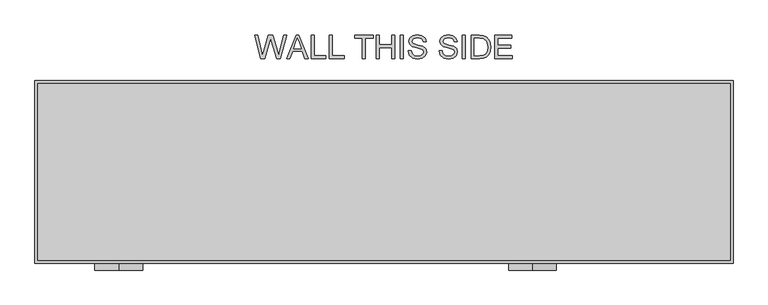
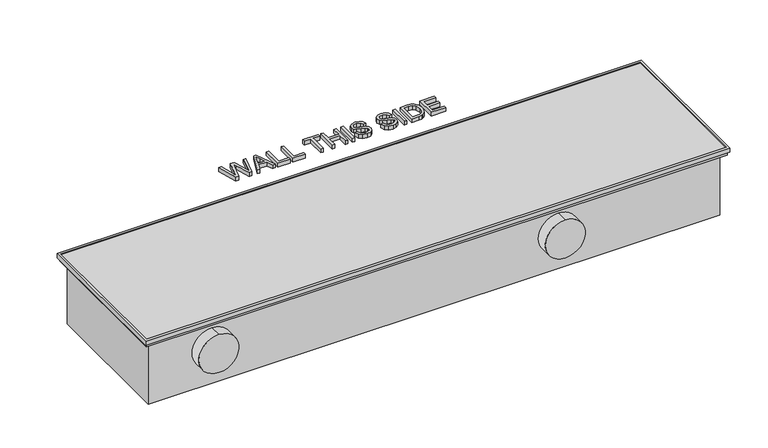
"""IFC4 building model written with IfcOpenShell, lengths in millimetres: unitary equipment geometry, VERANO CVK4P-II : CVK4P-18/35-II."""

import ifcopenshell
import ifcopenshell.guid

model = None  # the IFC model being written
_history = None  # IfcOwnerHistory: only IFC2X3 demands one
_inside = {}  # id of a spatial element -> (the spatial element, [elements in it])
_under = {}  # id of a project, library or spatial element -> (it, [spatial elements below it])
_declared = {}  # id of a project -> (the project, [libraries it declares])
_typed = {}  # id of a type object -> (the type object, [elements of that type])
_made_of = {}  # id of a material, layer set ... -> (it, [elements and type objects made of it])


def new_model(schema):
    """Start an empty IFC model of exactly this schema.

    Asked for "IFC4X3", IfcOpenShell would pick the latest addendum, in which some entities
    have other attributes; the version numbers below select the first issue.
    IFC2X3 requires an IfcOwnerHistory on every rooted entity: one is made here for all.
    """
    global model, _history
    if schema == "IFC4X3":
        model = ifcopenshell.file(schema_version=(4, 3, 0, 0))
    else:
        model = ifcopenshell.file(schema=schema)
    _inside.clear()
    _under.clear()
    _declared.clear()
    _typed.clear()
    _made_of.clear()
    _history = None
    if model.schema == "IFC2X3":
        org = make("IfcOrganization", Name="unknown")
        user = make(
            "IfcPersonAndOrganization",
            ThePerson=make("IfcPerson", FamilyName="unknown"),
            TheOrganization=org,
        )
        app = make(
            "IfcApplication",
            ApplicationDeveloper=org,
            Version="unknown",
            ApplicationFullName="unknown",
            ApplicationIdentifier="unknown",
        )
        _history = make(
            "IfcOwnerHistory",
            OwningUser=user,
            OwningApplication=app,
            ChangeAction="ADDED",
            CreationDate=0,
        )
    return model


def make(cls, **values):
    """One entity of the class cls with the attributes given. An attribute that is None is left unset."""
    return model.create_entity(
        cls, **{name: value for name, value in values.items() if value is not None}
    )


def rooted(cls, **values):
    """An entity with a GlobalId (a new one), such as an element, a storey or a relation."""
    return make(cls, GlobalId=ifcopenshell.guid.new(), OwnerHistory=_history, **values)


def si_unit(unit_type, name, prefix=None):
    """IfcSIUnit, for example si_unit("LENGTHUNIT", "METRE", prefix="MILLI")."""
    return make("IfcSIUnit", UnitType=unit_type, Prefix=prefix, Name=name)


def assignment(units):
    """IfcUnitAssignment: the units of a project."""
    return None if units is None else make("IfcUnitAssignment", Units=units)


def point(xyz):
    """IfcCartesianPoint."""
    return None if xyz is None else make("IfcCartesianPoint", Coordinates=xyz)


def direction(xyz):
    """IfcDirection."""
    return None if xyz is None else make("IfcDirection", DirectionRatios=xyz)


def frame(location, z_axis=None, x_axis=None):
    """IfcAxis2Placement3D, a coordinate frame: its origin and axes. An axis left out is left unset."""
    return make(
        "IfcAxis2Placement3D",
        Location=point(location),
        Axis=direction(z_axis),
        RefDirection=direction(x_axis),
    )


def frame_2d(location, x_axis=None):
    """IfcAxis2Placement2D, a coordinate frame in the plane: its origin and x axis."""
    return make(
        "IfcAxis2Placement2D", Location=point(location), RefDirection=direction(x_axis)
    )


def origin():
    """The frame at (0, 0, 0) with its axes left unset."""
    return frame((0.0, 0.0, 0.0))


def origin_with_axes():
    """The frame at (0, 0, 0) with the z axis (0, 0, 1) and the x axis (1, 0, 0) written out."""
    return frame((0.0, 0.0, 0.0), z_axis=(0.0, 0.0, 1.0), x_axis=(1.0, 0.0, 0.0))


def place(relative_to, where):
    """IfcLocalPlacement: puts the frame where relative to a parent placement (None: the world)."""
    return make(
        "IfcLocalPlacement", PlacementRelTo=relative_to, RelativePlacement=where
    )


def context(
    kind, dimensions, precision=None, world=None, true_north=None, identifier=None
):
    """IfcGeometricRepresentationContext, for example the 3D "Model" context."""
    return make(
        "IfcGeometricRepresentationContext",
        ContextIdentifier=identifier,
        ContextType=kind,
        CoordinateSpaceDimension=dimensions,
        Precision=precision,
        WorldCoordinateSystem=world,
        TrueNorth=true_north,
    )


def project(units=None, contexts=None):
    """IfcProject with its units and contexts."""
    return rooted(
        "IfcProject",
        Name="project",
        RepresentationContexts=contexts,
        UnitsInContext=assignment(units),
    )


def spatial(cls, under=None, at=None, **own):
    """A site, building, storey or space (cls), placed at a placement, below another one or the project."""
    s = rooted(cls, ObjectPlacement=at, **own)
    if under is not None:
        _under.setdefault(under.id(), (under, []))[1].append(s)
    return s


def polyline(points):
    """IfcPolyline through the points."""
    return make("IfcPolyline", Points=[point(p) for p in points])


def circle_curve(where, radius):
    """IfcCircle in the frame where."""
    return make("IfcCircle", Position=where, Radius=radius)


def trimmed(basis, trim1, trim2, sense, master):
    """IfcTrimmedCurve: the piece of a basis curve between two trims."""
    return make(
        "IfcTrimmedCurve",
        BasisCurve=basis,
        Trim1=trim1,
        Trim2=trim2,
        SenseAgreement=sense,
        MasterRepresentation=master,
    )


def segment(curve, same_sense, transition):
    """IfcCompositeCurveSegment."""
    return make(
        "IfcCompositeCurveSegment",
        Transition=transition,
        SameSense=same_sense,
        ParentCurve=curve,
    )


def composite_curve(segments, self_intersect=None):
    """IfcCompositeCurve: segments joined end to end."""
    return make("IfcCompositeCurve", Segments=segments, SelfIntersect=self_intersect)


def outline(outer, holes=None, kind="AREA"):
    """IfcArbitraryClosedProfileDef: a profile drawn as a closed curve; with holes, ...WithVoids."""
    if holes is None:
        return make("IfcArbitraryClosedProfileDef", ProfileType=kind, OuterCurve=outer)
    return make(
        "IfcArbitraryProfileDefWithVoids",
        ProfileType=kind,
        OuterCurve=outer,
        InnerCurves=holes,
    )


def extrude(swept, where, along, depth):
    """IfcExtrudedAreaSolid: the profile swept, set in the frame where, extruded along a direction by depth."""
    return make(
        "IfcExtrudedAreaSolid",
        SweptArea=swept,
        Position=where,
        ExtrudedDirection=direction(along),
        Depth=depth,
    )


def faces_of(points, faces, orient=None, outer=None):
    """IfcFace entities. A face is a list of loops; a loop is a list of indices into points, from 0.

    orient and outer hold one flag for each loop. By default every Orientation is true, the
    first loop of a face is its IfcFaceOuterBound and the others are IfcFaceBound.
    """
    made = []
    for i, loops in enumerate(faces):
        bounds = []
        for j, loop in enumerate(loops):
            is_outer = j == 0 if outer is None else outer[i][j]
            bounds.append(
                make(
                    "IfcFaceOuterBound" if is_outer else "IfcFaceBound",
                    Bound=make("IfcPolyLoop", Polygon=[points[k] for k in loop]),
                    Orientation=True if orient is None else orient[i][j],
                )
            )
        made.append(make("IfcFace", Bounds=bounds))
    return made


def faceted_brep(points, faces, orient=None, outer=None, voids=None):
    """IfcFacetedBrep: a solid bounded by flat faces; with voids (closed shells), ...WithVoids."""
    shared = [point(p) for p in points]
    hull = make("IfcClosedShell", CfsFaces=faces_of(shared, faces, orient, outer))
    if voids is None:
        return make("IfcFacetedBrep", Outer=hull)
    return make(
        "IfcFacetedBrepWithVoids",
        Outer=hull,
        Voids=[
            make(cls, CfsFaces=faces_of(shared, fs, o, b)) for cls, fs, o, b in voids
        ],
    )


def shape(context_of_items, identifier, shape_type, items):
    """IfcShapeRepresentation: the items that make up one representation, for example the "Body"."""
    return make(
        "IfcShapeRepresentation",
        ContextOfItems=context_of_items,
        RepresentationIdentifier=identifier,
        RepresentationType=shape_type,
        Items=items,
    )


def source(mapping_origin, context_of_items, identifier, shape_type, items):
    """IfcRepresentationMap: a shape defined once, which mapped items show again and again."""
    return make(
        "IfcRepresentationMap",
        MappingOrigin=mapping_origin,
        MappedRepresentation=shape(context_of_items, identifier, shape_type, items),
    )


def transform(
    local_origin,
    x_axis=None,
    y_axis=None,
    z_axis=None,
    scale=None,
    scale2=None,
    scale3=None,
    uniform=True,
):
    """IfcCartesianTransformationOperator3D, or its non-uniform kind. x_axis, y_axis, z_axis: its Axis1, 2, 3."""
    if uniform:
        return make(
            "IfcCartesianTransformationOperator3D",
            Axis1=direction(x_axis),
            Axis2=direction(y_axis),
            LocalOrigin=point(local_origin),
            Scale=scale,
            Axis3=direction(z_axis),
        )
    return make(
        "IfcCartesianTransformationOperator3DnonUniform",
        Axis1=direction(x_axis),
        Axis2=direction(y_axis),
        LocalOrigin=point(local_origin),
        Scale=scale,
        Axis3=direction(z_axis),
        Scale2=scale2,
        Scale3=scale3,
    )


def mapped(mapping_source, mapping_target):
    """IfcMappedItem: shows the shape of a source again, moved by a transform."""
    return make(
        "IfcMappedItem", MappingSource=mapping_source, MappingTarget=mapping_target
    )


def made_of(thing, what):
    """Note that an element or type object is made of a material, layer set ...; save() writes the relation."""
    if what is not None:
        _made_of.setdefault(what.id(), (what, []))[1].append(thing)
    return thing


def element(
    cls,
    number,
    at=None,
    inside=None,
    cuts=None,
    type_object=None,
    material=None,
    context=None,
    identifier="Body",
    shape_type=None,
    held_by="IfcProductDefinitionShape",
    body=None,
    shapes=None,
    **own,
):
    """One element of the class cls, such as IfcWall. Its Tag is "e" and its number.

    at: its placement. inside: the storey or other place that contains it. cuts: it is an
    opening in that element (IfcRelVoidsElement). A single representation is given by context,
    identifier, shape_type and body (its items); several are given by shapes. held_by: the class
    of the entity that holds the representations. save() writes the other relations.
    """
    e = rooted(cls, Tag="e%d" % number, ObjectPlacement=at, **own)
    if body is not None:
        shapes = [shape(context, identifier, shape_type, body)]
    if shapes is not None:
        e.Representation = make(held_by, Representations=shapes)
    if inside is not None:
        _inside.setdefault(inside.id(), (inside, []))[1].append(e)
    if cuts is not None:
        rooted(
            "IfcRelVoidsElement", RelatingBuildingElement=cuts, RelatedOpeningElement=e
        )
    if type_object is not None:
        _typed.setdefault(type_object.id(), (type_object, []))[1].append(e)
    return made_of(e, material)


def aggregate(whole, parts):
    """IfcRelAggregates: a whole, such as a stair, and the parts it consists of."""
    return rooted("IfcRelAggregates", RelatingObject=whole, RelatedObjects=parts)


def save(model, path):
    """Write the relations noted so far, then the file.

    IfcRelAggregates (storeys below a building ...), IfcRelContainedInSpatialStructure (elements
    in a storey), IfcRelDefinesByType, IfcRelAssociatesMaterial and IfcRelDeclares: one each for
    every whole, place, type object, material and project.
    """
    for whole, parts in _under.values():
        aggregate(whole, parts)
    for where, things in _inside.values():
        rooted(
            "IfcRelContainedInSpatialStructure",
            RelatedElements=things,
            RelatingStructure=where,
        )
    for kind, things in _typed.values():
        rooted("IfcRelDefinesByType", RelatedObjects=things, RelatingType=kind)
    for what, things in _made_of.values():
        rooted("IfcRelAssociatesMaterial", RelatedObjects=things, RelatingMaterial=what)
    for by, libraries in _declared.values():
        rooted("IfcRelDeclares", RelatingContext=by, RelatedDefinitions=libraries)
    model.write(path)


def unitary_equipment_3566d16b(model_context):
    return source(origin(), model_context, "Body", "SolidModel", [
        extrude(outline(composite_curve([segment(trimmed(circle_curve(frame_2d((-84.0, -554.0)), 50.0), [point((-34.0, -554.0))], [point((-134.0, -554.0))], False, "CARTESIAN"), True, "CONTINUOUS"), segment(trimmed(circle_curve(frame_2d((-84.0, -554.0)), 50.0), [point((-134.0, -554.0))], [point((-34.0, -554.0))], False, "CARTESIAN"), True, "CONTINUOUS")], self_intersect=False)), frame((0.0, -205.0, 0.0), z_axis=(0.0, 1.0, 0.0), x_axis=(0.0, 0.0, 1.0)), (0.0, 0.0, 1.0), 30.0),
        extrude(outline(composite_curve([segment(trimmed(circle_curve(frame_2d((-84.0, 310.0)), 50.0), [point((-34.0, 310.0))], [point((-134.0, 310.0))], False, "CARTESIAN"), True, "CONTINUOUS"), segment(trimmed(circle_curve(frame_2d((-84.0, 310.0)), 50.0), [point((-134.0, 310.0))], [point((-34.0, 310.0))], False, "CARTESIAN"), True, "CONTINUOUS")], self_intersect=False)), frame((0.0, -205.0, 0.0), z_axis=(0.0, 1.0, 0.0), x_axis=(0.0, 0.0, 1.0)), (0.0, 0.0, 1.0), 30.0),
        extrude(outline(composite_curve([segment(trimmed(circle_curve(frame_2d((25.0, -81.0)), 10.0), [point((25.0, -71.0))], [point((25.0, -91.0))], False, "CARTESIAN"), True, "CONTINUOUS"), segment(trimmed(circle_curve(frame_2d((25.0, -81.0)), 10.0), [point((25.0, -91.0))], [point((25.0, -71.0))], False, "CARTESIAN"), True, "CONTINUOUS")], self_intersect=False)), frame((507.0, 0.0, 0.0), z_axis=(1.0, 0.0, 0.0), x_axis=(0.0, 1.0, 0.0)), (0.0, 0.0, 1.0), 70.0),
        extrude(outline(composite_curve([segment(trimmed(circle_curve(frame_2d((155.0, -103.0)), 10.0), [point((155.0, -93.0))], [point((155.0, -113.0))], False, "CARTESIAN"), True, "CONTINUOUS"), segment(trimmed(circle_curve(frame_2d((155.0, -103.0)), 10.0), [point((155.0, -113.0))], [point((155.0, -93.0))], False, "CARTESIAN"), True, "CONTINUOUS")], self_intersect=False)), frame((507.0, 0.0, 0.0), z_axis=(1.0, 0.0, 0.0), x_axis=(0.0, 1.0, 0.0)), (0.0, 0.0, 1.0), 70.0),
        extrude(outline(polyline([(517.0, -5.0), (517.0, -25.0), (507.0, -25.0), (507.0, -5.0), (517.0, -5.0)])), frame((0.0, 0.0, -170.0), z_axis=(0.0, 0.0, 1.0), x_axis=(1.0, 0.0, 0.0)), (0.0, 0.0, 1.0), 10.0),
        faceted_brep([(723.0, -185.0, -16.5), (723.0, -185.0, 1.5), (723.0, 185.0, 1.5), (723.0, 185.0, -16.5), (724.0, -186.0, 0.0), (724.0, -186.0, -16.5), (724.0, 186.0, -16.5), (724.0, 186.0, 0.0), (728.0, -190.0, -10.0), (728.0, -190.0, 0.0), (728.0, 190.0, 0.0), (728.0, 190.0, -10.0), (729.0, -191.0, 1.5), (729.0, -191.0, -10.0), (729.0, 191.0, -10.0), (729.0, 191.0, 1.5), (-723.0, 185.0, 1.5), (-723.0, 185.0, -16.5), (-724.0, 186.0, -16.5), (-724.0, 186.0, 0.0), (-728.0, 190.0, 0.0), (-728.0, 190.0, -10.0), (-729.0, 191.0, -10.0), (-729.0, 191.0, 1.5), (-723.0, -185.0, 1.5), (-723.0, -185.0, -16.5), (-724.0, -186.0, -16.5), (-724.0, -186.0, 0.0), (-728.0, -190.0, 0.0), (-728.0, -190.0, -10.0), (-729.0, -191.0, -10.0), (-729.0, -191.0, 1.5)], [[[0, 1, 2, 3]], [[4, 5, 6, 7]], [[8, 9, 10, 11]], [[12, 13, 14, 15]], [[3, 2, 16, 17]], [[7, 6, 18, 19]], [[11, 10, 20, 21]], [[15, 14, 22, 23]], [[17, 16, 24, 25]], [[19, 18, 26, 27]], [[21, 20, 28, 29]], [[23, 22, 30, 31]], [[15, 23, 31, 12], [1, 24, 16, 2]], [[25, 24, 1, 0]], [[5, 26, 18, 6], [3, 17, 25, 0]], [[27, 26, 5, 4]], [[9, 28, 20, 10], [7, 19, 27, 4]], [[29, 28, 9, 8]], [[13, 30, 22, 14], [11, 21, 29, 8]], [[31, 30, 13, 12]]]),
        extrude(outline(composite_curve([segment(trimmed(circle_curve(frame_2d((28.0, -47.0)), 10.0), [point((28.0, -37.0))], [point((28.0, -57.0))], False, "CARTESIAN"), True, "CONTINUOUS"), segment(trimmed(circle_curve(frame_2d((28.0, -47.0)), 10.0), [point((28.0, -57.0))], [point((28.0, -37.0))], False, "CARTESIAN"), True, "CONTINUOUS")], self_intersect=False)), frame((507.0, 0.0, 0.0), z_axis=(1.0, 0.0, 0.0), x_axis=(0.0, 1.0, 0.0)), (0.0, 0.0, 1.0), 70.0),
        extrude(outline(composite_curve([segment(trimmed(circle_curve(frame_2d((113.0, -114.0)), 10.0), [point((113.0, -104.0))], [point((113.0, -124.0))], False, "CARTESIAN"), True, "CONTINUOUS"), segment(trimmed(circle_curve(frame_2d((113.0, -114.0)), 10.0), [point((113.0, -124.0))], [point((113.0, -104.0))], False, "CARTESIAN"), True, "CONTINUOUS")], self_intersect=False)), frame((507.0, 0.0, 0.0), z_axis=(1.0, 0.0, 0.0), x_axis=(0.0, 1.0, 0.0)), (0.0, 0.0, 1.0), 70.0),
        extrude(outline(polyline([(-256.9591346, 237.0), (-270.3846154, 286.2307692), (-264.0384615, 286.2307692), (-256.25, 253.875), (-253.8461538, 243.8870192), (-251.2740385, 252.7211538), (-241.5144231, 286.2307692), (-232.3677885, 286.2307692), (-225.2764423, 261.9399038), (-220.0, 243.8870192), (-217.6682692, 253.5865385), (-209.8076923, 286.2307692), (-203.4615385, 286.2307692), (-216.8990385, 237.0), (-223.4735577, 237.0), (-235.2764423, 274.9807692), (-236.9230769, 280.28125), (-238.7740385, 273.8990385), (-249.53125, 237.0), (-256.9591346, 237.0)])), origin_with_axes(), (0.0, 0.0, 1.0), 10.0),
        extrude(outline(polyline([(-203.0408654, 237.0), (-183.3894231, 286.2307692), (-178.1490385, 286.2307692), (-158.4975962, 237.0), (-165.0, 237.0), (-170.6370192, 252.3846154), (-190.9134615, 252.3846154), (-196.5384615, 237.0), (-203.0408654, 237.0)]), holes=[polyline([(-188.6538462, 258.5384615), (-172.8846154, 258.5384615), (-177.3197115, 270.6418269), (-180.7692308, 280.0769231), (-183.8341346, 271.6995192), (-188.6538462, 258.5384615)])]), origin_with_axes(), (0.0, 0.0, 1.0), 10.0),
        extrude(outline(polyline([(-151.9230769, 237.0), (-151.9230769, 286.2307692), (-145.7692308, 286.2307692), (-145.7692308, 243.1538462), (-121.1538462, 243.1538462), (-121.1538462, 237.0), (-151.9230769, 237.0)])), origin_with_axes(), (0.0, 0.0, 1.0), 10.0),
        extrude(outline(polyline([(-114.2307692, 237.0), (-114.2307692, 286.2307692), (-108.0769231, 286.2307692), (-108.0769231, 243.1538462), (-83.4615385, 243.1538462), (-83.4615385, 237.0), (-114.2307692, 237.0)])), origin_with_axes(), (0.0, 0.0, 1.0), 10.0),
        extrude(outline(polyline([(-45.0, 237.0), (-45.0, 280.0769231), (-61.1538462, 280.0769231), (-61.1538462, 286.2307692), (-22.6923077, 286.2307692), (-22.6923077, 280.0769231), (-38.8461538, 280.0769231), (-38.8461538, 237.0), (-45.0, 237.0)])), origin_with_axes(), (0.0, 0.0, 1.0), 10.0),
        extrude(outline(polyline([(-15.7692308, 237.0), (-15.7692308, 286.2307692), (-9.6153846, 286.2307692), (-9.6153846, 266.2307692), (16.5384615, 266.2307692), (16.5384615, 286.2307692), (22.6923077, 286.2307692), (22.6923077, 237.0), (16.5384615, 237.0), (16.5384615, 260.0769231), (-9.6153846, 260.0769231), (-9.6153846, 237.0), (-15.7692308, 237.0)])), origin_with_axes(), (0.0, 0.0, 1.0), 10.0),
        extrude(outline(polyline([(34.2307692, 237.0), (34.2307692, 286.2307692), (40.3846154, 286.2307692), (40.3846154, 237.0), (34.2307692, 237.0)])), origin_with_axes(), (0.0, 0.0, 1.0), 10.0),
        extrude(outline(polyline([(50.3846154, 253.9230769), (56.5384615, 253.9230769), (58.5216346, 247.7632212), (63.3653846, 243.8689904), (70.7451923, 242.3846154), (77.1754808, 243.5084135), (81.328125, 246.5973558), (82.6923077, 250.7259615), (81.6706731, 254.5661058), (77.4879808, 257.3605769), (68.5276442, 259.7103365), (58.8822115, 262.7451923), (53.6478365, 267.3245192), (51.9230769, 273.4423077), (54.0564904, 280.4074519), (60.2884615, 285.3233173), (69.4110577, 287.0), (79.1466346, 285.2451923), (85.6370192, 280.0889423), (88.0769231, 272.3846154), (81.9230769, 272.3846154), (78.4375, 278.7067308), (69.6514423, 280.8461538), (60.8413462, 278.7307692), (58.0769231, 273.6225962), (60.0360577, 269.3557692), (70.0841346, 265.9182692), (80.9735577, 262.8293269), (86.9290865, 257.8413462), (88.8461538, 250.8822115), (86.640625, 243.5204327), (80.2944712, 238.1478365), (70.9855769, 236.2307692), (59.9939904, 238.2980769), (53.0408654, 244.5240385), (50.3846154, 253.9230769)])), origin_with_axes(), (0.0, 0.0, 1.0), 10.0),
        extrude(outline(polyline([(115.0, 253.9230769), (121.1538462, 253.9230769), (123.1370192, 247.7632212), (127.9807692, 243.8689904), (135.3605769, 242.3846154), (141.7908654, 243.5084135), (145.9435096, 246.5973558), (147.3076923, 250.7259615), (146.2860577, 254.5661058), (142.1033654, 257.3605769), (133.1430288, 259.7103365), (123.4975962, 262.7451923), (118.2632212, 267.3245192), (116.5384615, 273.4423077), (118.671875, 280.4074519), (124.9038462, 285.3233173), (134.0264423, 287.0), (143.7620192, 285.2451923), (150.2524038, 280.0889423), (152.6923077, 272.3846154), (146.5384615, 272.3846154), (143.0528846, 278.7067308), (134.2668269, 280.8461538), (125.4567308, 278.7307692), (122.6923077, 273.6225962), (124.6514423, 269.3557692), (134.6995192, 265.9182692), (145.5889423, 262.8293269), (151.5444712, 257.8413462), (153.4615385, 250.8822115), (151.2560096, 243.5204327), (144.9098558, 238.1478365), (135.6009615, 236.2307692), (124.609375, 238.2980769), (117.65625, 244.5240385), (115.0, 253.9230769)])), origin_with_axes(), (0.0, 0.0, 1.0), 10.0),
        extrude(outline(polyline([(163.4615385, 237.0), (163.4615385, 286.2307692), (169.6153846, 286.2307692), (169.6153846, 237.0), (163.4615385, 237.0)])), origin_with_axes(), (0.0, 0.0, 1.0), 10.0),
        extrude(outline(polyline([(181.9230769, 237.0), (181.9230769, 286.2307692), (198.90625, 286.2307692), (207.6923077, 285.5216346), (214.9278846, 282.0), (220.7572115, 273.5865385), (222.6923077, 261.8798077), (221.3822115, 251.9459135), (218.0168269, 244.7764423), (213.5216346, 240.3112981), (207.6382212, 237.8413462), (199.7235577, 237.0), (181.9230769, 237.0)]), holes=[polyline([(188.0769231, 243.1538462), (198.9663462, 243.1538462), (206.8870192, 244.0432692), (211.4543269, 246.5552885), (215.1983173, 252.6670673), (216.5384615, 261.9759615), (213.9122596, 273.6346154), (207.5240385, 279.0913462), (198.7980769, 280.0769231), (188.0769231, 280.0769231), (188.0769231, 243.1538462)])]), origin_with_axes(), (0.0, 0.0, 1.0), 10.0),
        extrude(outline(polyline([(231.1538462, 237.0), (231.1538462, 286.2307692), (266.5384615, 286.2307692), (266.5384615, 280.0769231), (237.3076923, 280.0769231), (237.3076923, 265.4615385), (265.0, 265.4615385), (265.0, 259.3076923), (237.3076923, 259.3076923), (237.3076923, 243.1538462), (267.3076923, 243.1538462), (267.3076923, 237.0), (231.1538462, 237.0)])), origin_with_axes(), (0.0, 0.0, 1.0), 10.0),
        extrude(outline(polyline([(507.0, 175.0), (507.0, -162.0), (-663.0, -162.0), (-663.0, 175.0), (507.0, 175.0)])), frame((0.0, 0.0, -179.0), z_axis=(0.0, 0.0, 1.0), x_axis=(1.0, 0.0, 0.0)), (0.0, 0.0, 1.0), 161.0),
        extrude(outline(polyline([(725.0, 187.0), (725.0, -187.0), (-725.0, -187.0), (-725.0, 187.0), (725.0, 187.0)])), frame((0.0, 0.0, -18.0), z_axis=(0.0, 0.0, 1.0), x_axis=(1.0, 0.0, 0.0)), (0.0, 0.0, 1.0), 18.0),
        faceted_brep([(712.0, -174.0, -17.0), (712.0, 174.0, -17.0), (712.0, 174.0, -179.0), (712.0, -174.0, -179.0), (725.0, -187.0, 0.0), (725.0, -187.0, -18.0), (725.0, 187.0, -18.0), (725.0, 187.0, 0.0), (724.0, -186.0, -17.0), (724.0, -186.0, 0.0), (724.0, 186.0, 0.0), (724.0, 186.0, -17.0), (713.0, -175.0, -18.0), (713.0, -175.0, -180.0), (713.0, 175.0, -180.0), (713.0, 175.0, -18.0), (-725.0, 187.0, -18.0), (-725.0, 187.0, 0.0), (-724.0, 186.0, 0.0), (-724.0, 186.0, -17.0), (-713.0, 175.0, -180.0), (-713.0, 175.0, -18.0), (-712.0, 174.0, -17.0), (-712.0, 174.0, -179.0), (-725.0, -187.0, -18.0), (-725.0, -187.0, 0.0), (-724.0, -186.0, 0.0), (-724.0, -186.0, -17.0), (-713.0, -175.0, -180.0), (-713.0, -175.0, -18.0), (-712.0, -174.0, -17.0), (-712.0, -174.0, -179.0)], [[[0, 1, 2, 3]], [[4, 5, 6, 7]], [[8, 9, 10, 11]], [[12, 13, 14, 15]], [[7, 6, 16, 17]], [[11, 10, 18, 19]], [[15, 14, 20, 21]], [[1, 22, 23, 2]], [[17, 16, 24, 25]], [[19, 18, 26, 27]], [[21, 20, 28, 29]], [[22, 30, 31, 23]], [[8, 11, 19, 27], [1, 0, 30, 22]], [[5, 4, 25, 24]], [[4, 7, 17, 25], [10, 9, 26, 18]], [[9, 8, 27, 26]], [[6, 5, 24, 16], [12, 15, 21, 29]], [[13, 12, 29, 28]], [[14, 13, 28, 20]], [[30, 0, 3, 31]], [[3, 2, 23, 31]]]),
    ])


if __name__ == "__main__":
    model = new_model("IFC4")
    model_context = context("Model", 3, world=origin())
    ifc_project = project(units=[si_unit("LENGTHUNIT", "METRE", prefix="MILLI")], contexts=[model_context])
    site = spatial("IfcSite", under=ifc_project)
    building = spatial("IfcBuilding", under=site)
    placement = place(None, origin())
    unitary_equipment_shape = unitary_equipment_3566d16b(model_context)
    element("IfcUnitaryEquipment", 1, ObjectType="VERANO CVK4P-II : CVK4P-18/35-II", at=placement, inside=building, context=model_context, shape_type="MappedRepresentation", body=[
        mapped(unitary_equipment_shape, transform((0.0, 0.0, 0.0), x_axis=(1.0, 0.0, 0.0), y_axis=(0.0, 1.0, 0.0), z_axis=(0.0, 0.0, 1.0))),
    ])
    save(model, "model.ifc")
